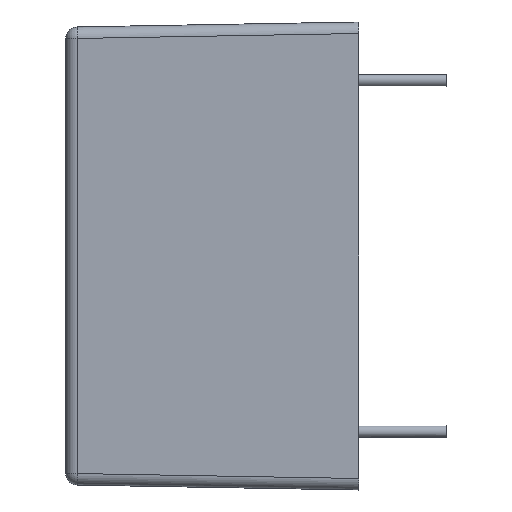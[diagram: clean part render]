
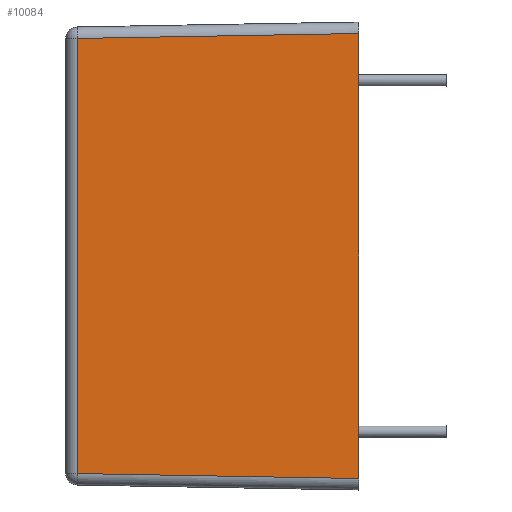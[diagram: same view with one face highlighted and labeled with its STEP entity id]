
A CAD part, left-side view. The second image highlights one B-rep face of the part: STEP entity #10084.
In plain terms, the highlighted planar face has unit normal (-1, 0.018, 0) as drawn and (1, -0.017, 0) by its records, which use the part's own axes.
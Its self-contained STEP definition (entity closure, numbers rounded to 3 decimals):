
#615 = DIRECTION ( 'NONE',  ( 0.017, 1., -0.017 ) ) ;
#1251 = CARTESIAN_POINT ( 'NONE',  ( 15.9, 0., -10.15 ) ) ;
#2021 = VERTEX_POINT ( 'NONE', #23173 ) ;
#2249 = ORIENTED_EDGE ( 'NONE', *, *, #7808, .T. ) ;
#3847 = DIRECTION ( 'NONE',  ( 1., -0.017, 0. ) ) ;
#4832 = VERTEX_POINT ( 'NONE', #18780 ) ;
#5051 = VERTEX_POINT ( 'NONE', #31498 ) ;
#5228 = CARTESIAN_POINT ( 'NONE',  ( 15.9, 0., -10.15 ) ) ;
#5669 = ORIENTED_EDGE ( 'NONE', *, *, #10491, .F. ) ;
#6135 = VECTOR ( 'NONE', #14651, 1000. ) ;
#6458 = PLANE ( 'NONE',  #20701 ) ;
#7604 = CARTESIAN_POINT ( 'NONE',  ( 15.894, -0.345, 9.644 ) ) ;
#7808 = EDGE_CURVE ( 'NONE', #27107, #5051, #12977, .T. ) ;
#9152 = DIRECTION ( 'NONE',  ( 0., 0., -1. ) ) ;
#10084 = ADVANCED_FACE ( 'NONE', ( #28437 ), #6458, .T. ) ;
#10491 = EDGE_CURVE ( 'NONE', #4832, #5051, #27192, .T. ) ;
#10541 = CARTESIAN_POINT ( 'NONE',  ( 15.9, 0.009, -9.65 ) ) ;
#10947 = EDGE_LOOP ( 'NONE', ( #26176, #27000, #2249, #5669 ) ) ;
#12977 = LINE ( 'NONE', #10541, #17526 ) ;
#13944 = EDGE_CURVE ( 'NONE', #4832, #2021, #32182, .T. ) ;
#14651 = DIRECTION ( 'NONE',  ( 0., 0., -1. ) ) ;
#17507 = DIRECTION ( 'NONE',  ( -0.017, -1., -0.017 ) ) ;
#17526 = VECTOR ( 'NONE', #615, 1000. ) ;
#18780 = CARTESIAN_POINT ( 'NONE',  ( 15.9, 0., 9.65 ) ) ;
#20701 = AXIS2_PLACEMENT_3D ( 'NONE', #1251, #3847, #31352 ) ;
#21525 = LINE ( 'NONE', #29014, #27104 ) ;
#21965 = CARTESIAN_POINT ( 'NONE',  ( 15.687, -12.209, -9.437 ) ) ;
#23173 = CARTESIAN_POINT ( 'NONE',  ( 15.687, -12.209, 9.437 ) ) ;
#26176 = ORIENTED_EDGE ( 'NONE', *, *, #13944, .T. ) ;
#27000 = ORIENTED_EDGE ( 'NONE', *, *, #29125, .T. ) ;
#27104 = VECTOR ( 'NONE', #9152, 1000. ) ;
#27107 = VERTEX_POINT ( 'NONE', #21965 ) ;
#27192 = LINE ( 'NONE', #5228, #6135 ) ;
#28437 = FACE_OUTER_BOUND ( 'NONE', #10947, .T. ) ;
#29014 = CARTESIAN_POINT ( 'NONE',  ( 15.687, -12.209, -9.428 ) ) ;
#29094 = VECTOR ( 'NONE', #17507, 1000. ) ;
#29125 = EDGE_CURVE ( 'NONE', #2021, #27107, #21525, .T. ) ;
#31352 = DIRECTION ( 'NONE',  ( 0.017, 1., 0. ) ) ;
#31498 = CARTESIAN_POINT ( 'NONE',  ( 15.9, 0., -9.65 ) ) ;
#32182 = LINE ( 'NONE', #7604, #29094 ) ;
